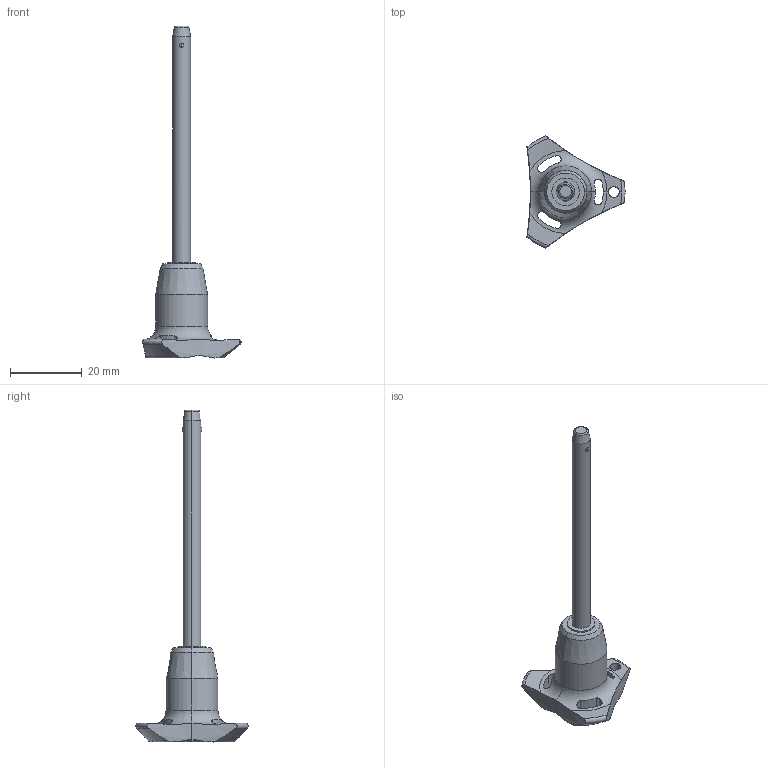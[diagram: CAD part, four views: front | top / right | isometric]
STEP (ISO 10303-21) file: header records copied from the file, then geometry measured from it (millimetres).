
FILE_DESCRIPTION (( 'STEP AP203' ), '1' );
FILE_NAME ('QR1704.M05-060-S.step', '2025-11-12T09:10:39', ( '' ), ( '' ), 'SwSTEP 2.0', 'SolidWorks 2019', '' );
FILE_SCHEMA (( 'CONFIG_CONTROL_DESIGN' ));
Length unit declared in the file: millimetre
Products named in the file (1): QR1704.M05-060-S
Bounding box: 27.4 x 31.31 x 92.7 mm (x, y, z)
Volume: 6046.1 mm3; surface area: 3450.8 mm2
Topology: 1 solids, 1 shells, 66 faces, 181 edges, 115 vertices
Faces by surface type: cylinder 30, cone 14, torus 12, sphere 6, plane 4
Entity records: 2693 total; most frequent: CARTESIAN_POINT 981, ORIENTED_EDGE 362, DIRECTION 332, EDGE_CURVE 181, AXIS2_PLACEMENT_3D 148, VERTEX_POINT 115, CIRCLE 81, EDGE_LOOP 72
